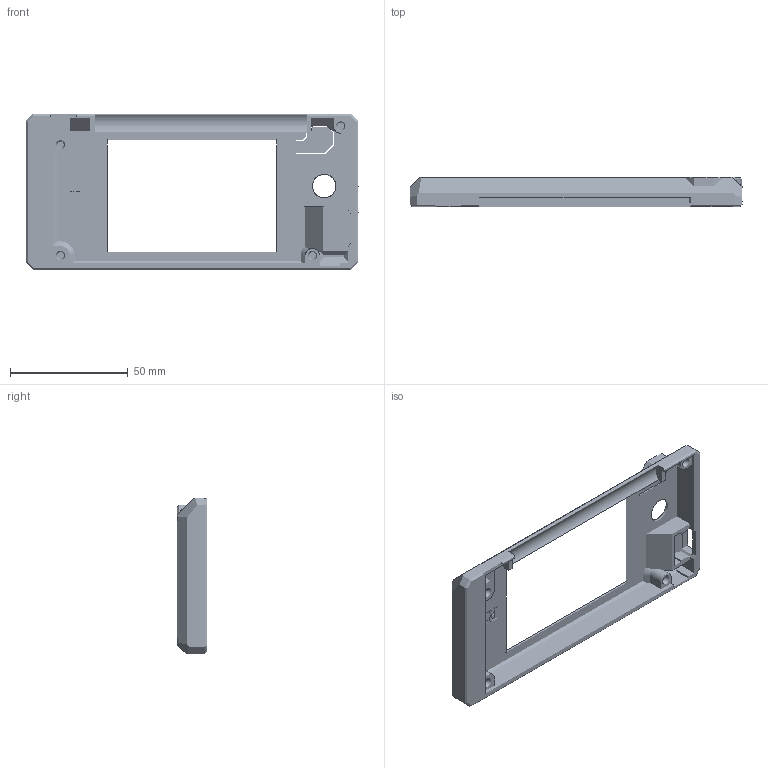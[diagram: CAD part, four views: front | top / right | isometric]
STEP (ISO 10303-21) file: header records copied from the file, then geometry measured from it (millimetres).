
FILE_DESCRIPTION(/* description */ ('STEP AP242','CAx-IF Rec.Pracs.---Representation and Presentation of Product Manufacturing Information (PMI)---4.0---2014-10-13','CAx-IF Rec.Pracs.---3D Tessellated Geometry---0.4---2014-09-14','2;1'),/* implementation_level */ '2;1');
FILE_NAME(/* name */ 'xlcd-cover',/* time_stamp */ '2023-04-16T13:08:20+00:00',/* author */ (''),/* organization */ (''),/* preprocessor_version */ 'ST-DEVELOPER v18.102',/* originating_system */ ' ',/* authorisation */ ' ');
FILE_SCHEMA (('AP242_MANAGED_MODEL_BASED_3D_ENGINEERING_MIM_LF { 1 0 10303 442 1 1 4 }'));
Length unit declared in the file: metre
Products named in the file (1): Part 1
Bounding box: 141 x 12.4 x 66 mm (x, y, z)
Surface area: 20116.6 mm2 (no closed solid volume)
Topology: 0 solids, 1 shells, 1 faces, 0 edges, 0 vertices
Faces by surface type: other 1
Entity records: 38 total; most frequent: STYLED_ITEM 2, PRESENTATION_STYLE_ASSIGNMENT 2, SURFACE_STYLE_USAGE 2, SURFACE_SIDE_STYLE 2, SURFACE_STYLE_FILL_AREA 2, FILL_AREA_STYLE 2, FILL_AREA_STYLE_COLOUR 2, DIRECTION 2
